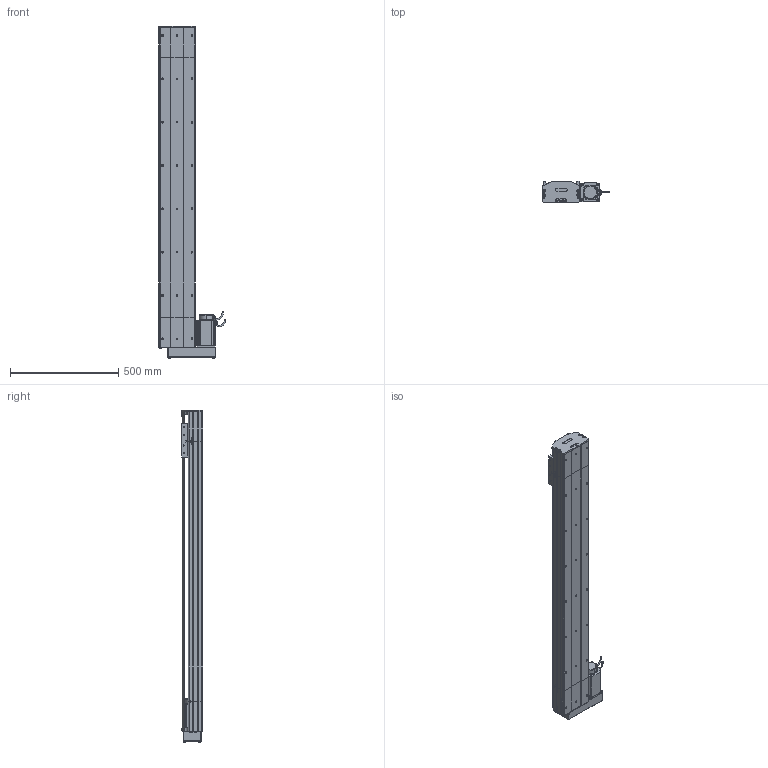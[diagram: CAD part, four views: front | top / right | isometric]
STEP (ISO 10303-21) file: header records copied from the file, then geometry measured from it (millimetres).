
FILE_DESCRIPTION (( 'STEP AP214' ), '1' );
FILE_NAME ('D17 TSH BL S1200.STEP', '2010-06-30T07:00:55', ( 'Christophe Gaillard' ), ( 'SGA' ), 'SwSTEP 2.0', 'SolidWorks 2010', '' );
FILE_SCHEMA (( 'AUTOMOTIVE_DESIGN' ));
Length unit declared in the file: millimetre
Products named in the file (33): corpl tail D17_Default; couvercle D17 head_Default; corpl head D17 BM_Default; head BL_Default; vis M5 L25_Default; vis M5 L8 90°_Default; couvercle D17_Default; Arbre+rail tail D17; tete d''axe haut D17; tete d''axe bas D17; plaque de  bout tail D17_Default; vis M5 L12_Default; guide D17; Chariot D17; plaque de  bout BM head D17_Default; chariot D17S_Default; Cvis M5 L70_Default; renvoi BL_Default; Vis M5 L16-2_Default; Conecteur_Default; Conecteur2_Default; codeur 90BLDC125-640; corps 90BLDC125A-640; avant 90BLDC125A-640; Moteur motionking 90BLDC125A-640; vis M5 L5_Default; Arbre+rail head D17; arbre + rail D17 Course 1200 ; course 1200 D17_Default; D17 TSH BL S1200; Tail D17_Default; couvercle D17 course L1200_Default; corp D17 1200_Default
Assembly tree (55 placements, depth 4):
  D17 TSH BL S1200
    head BL_Default
      Cvis M5 L70_Default  x2
      vis M5 L12_Default  x8
      vis M5 L5_Default  x2
      Vis M5 L16-2_Default  x4
      corpl head D17 BM_Default
      couvercle D17 head_Default
      Arbre+rail head D17
      Moteur motionking 90BLDC125A-640
        corps 90BLDC125A-640
        Conecteur_Default
        avant 90BLDC125A-640
        Conecteur2_Default
        codeur 90BLDC125-640
      plaque de  bout BM head D17_Default
      renvoi BL_Default
    course 1200 D17_Default
      corp D17 1200_Default
      couvercle D17 course L1200_Default
      arbre + rail D17 Course 1200 
    Tail D17_Default
      tete d''axe haut D17
      Arbre+rail tail D17
      tete d''axe bas D17
      vis M5 L8 90°_Default  x2
      vis M5 L12_Default  x4
      vis M5 L25_Default  x2
      corpl tail D17_Default
      couvercle D17_Default
      plaque de  bout tail D17_Default
    chariot D17S_Default
      Chariot D17
      vis M5 L12_Default  x4
      guide D17  x2
Bounding box: 308.95 x 99.7 x 1532.7 mm (x, y, z)
Volume: 9789968.9 mm3; surface area: 2511512 mm2
Topology: 80 solids, 80 shells, 2275 faces, 5743 edges, 3704 vertices
Faces by surface type: plane 1396, cylinder 602, bspline 136, torus 73, cone 64, sphere 4
Entity records: 73717 total; most frequent: CARTESIAN_POINT 22926, ORIENTED_EDGE 8994, DIRECTION 8426, EDGE_CURVE 4497, LINE 3086, VECTOR 3086, VERTEX_POINT 2950, AXIS2_PLACEMENT_3D 2670
